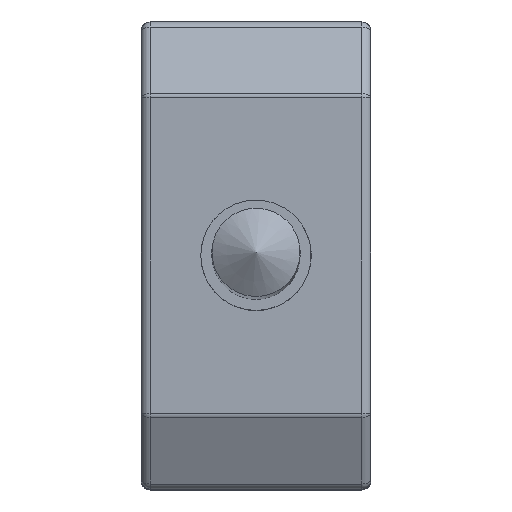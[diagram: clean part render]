
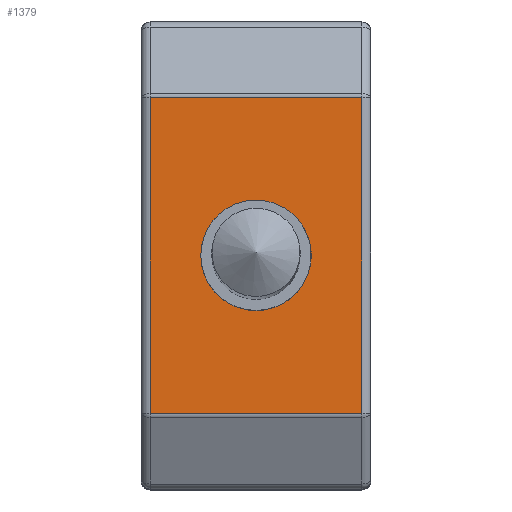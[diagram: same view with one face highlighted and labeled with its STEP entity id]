
A CAD part, top view. The second image highlights one B-rep face of the part: STEP entity #1379.
In plain terms, the highlighted planar face has unit normal (0, 0, 1).
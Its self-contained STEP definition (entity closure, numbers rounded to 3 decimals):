
#36 = AXIS2_PLACEMENT_3D ( 'NONE', #2363, #1950, #3885 ) ;
#70 = DIRECTION ( 'NONE',  ( 0., -1., 0. ) ) ;
#130 = AXIS2_PLACEMENT_3D ( 'NONE', #3757, #427, #70 ) ;
#262 = EDGE_LOOP ( 'NONE', ( #1306, #2337, #1111, #3923 ) ) ;
#266 = CARTESIAN_POINT ( 'NONE',  ( -42.257, -25.759, -18.589 ) ) ;
#427 = DIRECTION ( 'NONE',  ( 0., 0., 1. ) ) ;
#458 = FACE_OUTER_BOUND ( 'NONE', #262, .T. ) ;
#545 = PLANE ( 'NONE',  #36 ) ;
#778 = VERTEX_POINT ( 'NONE', #3847 ) ;
#837 = CARTESIAN_POINT ( 'NONE',  ( -42.257, -47.041, -18.589 ) ) ;
#965 = CIRCLE ( 'NONE', #130, 3. ) ;
#966 = CARTESIAN_POINT ( 'NONE',  ( -30.757, -29.759, -18.589 ) ) ;
#1040 = LINE ( 'NONE', #266, #3103 ) ;
#1111 = ORIENTED_EDGE ( 'NONE', *, *, #1583, .T. ) ;
#1134 = VECTOR ( 'NONE', #3673, 1000. ) ;
#1156 = CARTESIAN_POINT ( 'NONE',  ( -30.757, -29.878, -18.589 ) ) ;
#1306 = ORIENTED_EDGE ( 'NONE', *, *, #3687, .T. ) ;
#1309 = FACE_BOUND ( 'NONE', #1819, .T. ) ;
#1310 = CARTESIAN_POINT ( 'NONE',  ( -42.257, -29.878, -18.589 ) ) ;
#1337 = LINE ( 'NONE', #966, #3319 ) ;
#1379 = ADVANCED_FACE ( 'NONE', ( #1309, #458 ), #545, .F. ) ;
#1583 = EDGE_CURVE ( 'NONE', #2541, #2559, #1040, .T. ) ;
#1677 = VERTEX_POINT ( 'NONE', #1156 ) ;
#1790 = LINE ( 'NONE', #4715, #1134 ) ;
#1819 = EDGE_LOOP ( 'NONE', ( #3969 ) ) ;
#1950 = DIRECTION ( 'NONE',  ( 0., 0., -1. ) ) ;
#2152 = VECTOR ( 'NONE', #2857, 1000. ) ;
#2254 = CARTESIAN_POINT ( 'NONE',  ( -36.507, -41.459, -18.589 ) ) ;
#2256 = EDGE_CURVE ( 'NONE', #3708, #3708, #965, .T. ) ;
#2337 = ORIENTED_EDGE ( 'NONE', *, *, #3947, .T. ) ;
#2363 = CARTESIAN_POINT ( 'NONE',  ( -30.257, -25.759, -18.589 ) ) ;
#2541 = VERTEX_POINT ( 'NONE', #1310 ) ;
#2559 = VERTEX_POINT ( 'NONE', #837 ) ;
#2789 = DIRECTION ( 'NONE',  ( 0., 1., 0. ) ) ;
#2857 = DIRECTION ( 'NONE',  ( -1., 0., 0. ) ) ;
#3103 = VECTOR ( 'NONE', #4765, 1000. ) ;
#3319 = VECTOR ( 'NONE', #2789, 1000. ) ;
#3673 = DIRECTION ( 'NONE',  ( 1., 0., 0. ) ) ;
#3687 = EDGE_CURVE ( 'NONE', #778, #1677, #1337, .T. ) ;
#3708 = VERTEX_POINT ( 'NONE', #2254 ) ;
#3757 = CARTESIAN_POINT ( 'NONE',  ( -36.507, -38.459, -18.589 ) ) ;
#3847 = CARTESIAN_POINT ( 'NONE',  ( -30.757, -47.041, -18.589 ) ) ;
#3885 = DIRECTION ( 'NONE',  ( 0., 1., 0. ) ) ;
#3903 = LINE ( 'NONE', #4368, #2152 ) ;
#3923 = ORIENTED_EDGE ( 'NONE', *, *, #4574, .T. ) ;
#3947 = EDGE_CURVE ( 'NONE', #1677, #2541, #3903, .T. ) ;
#3969 = ORIENTED_EDGE ( 'NONE', *, *, #2256, .F. ) ;
#4368 = CARTESIAN_POINT ( 'NONE',  ( -30.257, -29.878, -18.589 ) ) ;
#4574 = EDGE_CURVE ( 'NONE', #2559, #778, #1790, .T. ) ;
#4715 = CARTESIAN_POINT ( 'NONE',  ( -30.257, -47.041, -18.589 ) ) ;
#4765 = DIRECTION ( 'NONE',  ( 0., -1., 0. ) ) ;
